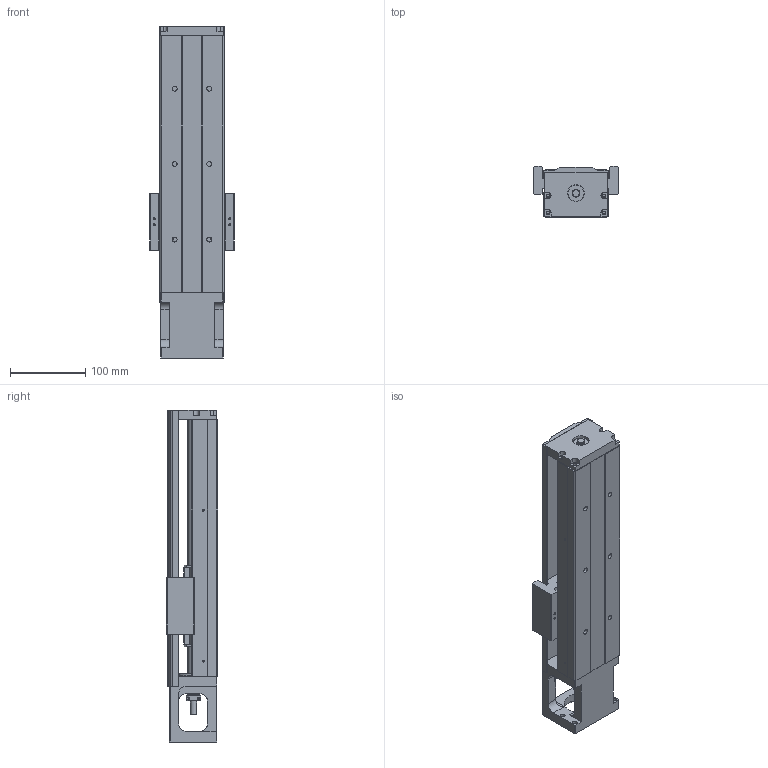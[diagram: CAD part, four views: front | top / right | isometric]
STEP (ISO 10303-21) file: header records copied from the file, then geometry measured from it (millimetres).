
FILE_DESCRIPTION(/* description */ (''),/* implementation_level */ '2;1');
FILE_NAME(/* name */ '46L-340C.stp',/* time_stamp */ '2016-12-20T13:54:14+08:00',/* author */ (''),/* organization */ (''),/* preprocessor_version */ 'ST-DEVELOPER v11',/* originating_system */ 'SIEMENS UGS NX 6.0',/* authorisation */ '');
FILE_SCHEMA (('AUTOMOTIVE_DESIGN { 1 0 10303 214 1 1 1 1 }'));
Length unit declared in the file: millimetre
Products named in the file (1): model4
Bounding box: 112 x 68 x 440 mm (x, y, z)
Volume: 1354993.8 mm3; surface area: 323212.3 mm2
Topology: 7 solids, 15 shells, 670 faces, 1754 edges, 1158 vertices
Faces by surface type: plane 335, cylinder 241, cone 51, bspline 35, torus 8
Full cylindrical faces by diameter (mm): 2.11 x4, 2.15 x4, 2.42 x8, 2.5 x4, 3 x6, 3.2 x4, 3.3 x12, 3.4 x8, 4 x4, 4.2 x4, 4.5 x8, 5 x14, 6 x8, 6.35 x2, 6.6 x6, 8 x1, 9.6 x1, 10 x3, 11 x6, 12 x1, 14.95 x2, 15 x1, 16 x2, 22 x3, 27.5 x1, 44 x1, 50 x1
Entity records: 30861 total; most frequent: CARTESIAN_POINT 12548, ORIENTED_EDGE 3048, DIRECTION 3032, EDGE_CURVE 1524, AXIS2_PLACEMENT_3D 1100, VERTEX_POINT 1092, EDGE_LOOP 938, LINE 832
